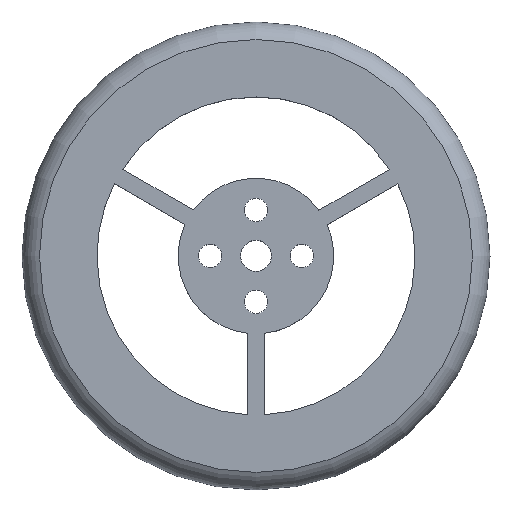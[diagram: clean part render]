
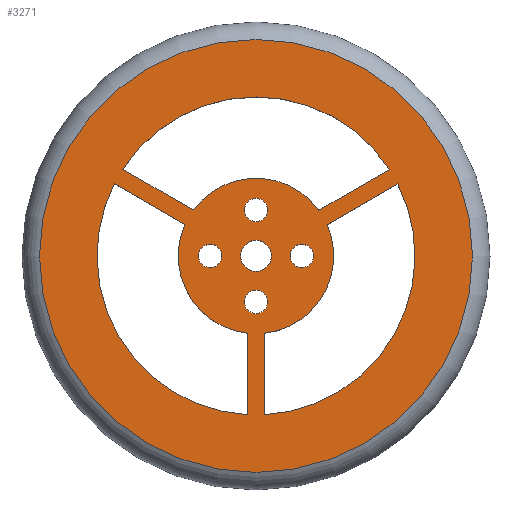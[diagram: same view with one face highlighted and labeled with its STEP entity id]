
A CAD part, top view. The second image highlights one B-rep face of the part: STEP entity #3271.
In plain terms, the highlighted planar face has unit normal (0, 0, 1).
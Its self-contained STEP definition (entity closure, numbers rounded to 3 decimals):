
#67=PLANE('',#3454);
#212=FACE_BOUND('',#472,.T.);
#213=FACE_BOUND('',#473,.T.);
#214=FACE_BOUND('',#474,.T.);
#215=FACE_BOUND('',#475,.T.);
#216=FACE_BOUND('',#476,.T.);
#217=FACE_BOUND('',#477,.T.);
#218=FACE_BOUND('',#478,.T.);
#219=FACE_BOUND('',#479,.T.);
#292=FACE_OUTER_BOUND('',#471,.T.);
#471=EDGE_LOOP('',(#2362));
#472=EDGE_LOOP('',(#2363,#2364,#2365,#2366));
#473=EDGE_LOOP('',(#2367));
#474=EDGE_LOOP('',(#2368));
#475=EDGE_LOOP('',(#2369));
#476=EDGE_LOOP('',(#2370));
#477=EDGE_LOOP('',(#2371));
#478=EDGE_LOOP('',(#2372,#2373,#2374,#2375));
#479=EDGE_LOOP('',(#2376,#2377,#2378,#2379));
#711=CIRCLE('',#3444,11.);
#712=CIRCLE('',#3446,11.);
#715=CIRCLE('',#3450,22.5);
#716=CIRCLE('',#3452,22.5);
#718=CIRCLE('',#3455,30.633);
#719=CIRCLE('',#3456,1.65);
#720=CIRCLE('',#3457,1.65);
#721=CIRCLE('',#3458,2.2);
#722=CIRCLE('',#3459,1.65);
#723=CIRCLE('',#3460,1.65);
#724=CIRCLE('',#3461,11.);
#725=CIRCLE('',#3462,22.5);
#757=LINE('',#4551,#1159);
#763=LINE('',#4563,#1165);
#768=LINE('',#4591,#1170);
#769=LINE('',#4602,#1171);
#770=LINE('',#4607,#1172);
#771=LINE('',#4610,#1173);
#1159=VECTOR('',#3683,10.);
#1165=VECTOR('',#3691,10.);
#1170=VECTOR('',#3724,10.);
#1171=VECTOR('',#3735,10.);
#1172=VECTOR('',#3738,10.);
#1173=VECTOR('',#3741,10.);
#1570=VERTEX_POINT('',#4547);
#1572=VERTEX_POINT('',#4550);
#1575=VERTEX_POINT('',#4557);
#1577=VERTEX_POINT('',#4561);
#1579=VERTEX_POINT('',#4567);
#1580=VERTEX_POINT('',#4571);
#1583=VERTEX_POINT('',#4579);
#1584=VERTEX_POINT('',#4583);
#1586=VERTEX_POINT('',#4589);
#1587=VERTEX_POINT('',#4592);
#1588=VERTEX_POINT('',#4594);
#1589=VERTEX_POINT('',#4596);
#1590=VERTEX_POINT('',#4598);
#1591=VERTEX_POINT('',#4600);
#1592=VERTEX_POINT('',#4603);
#1593=VERTEX_POINT('',#4604);
#1594=VERTEX_POINT('',#4606);
#1595=VERTEX_POINT('',#4608);
#1863=EDGE_CURVE('',#1570,#1572,#757,.T.);
#1869=EDGE_CURVE('',#1577,#1575,#763,.T.);
#1872=EDGE_CURVE('',#1577,#1579,#711,.T.);
#1873=EDGE_CURVE('',#1580,#1572,#712,.T.);
#1878=EDGE_CURVE('',#1583,#1570,#715,.T.);
#1879=EDGE_CURVE('',#1575,#1584,#716,.T.);
#1882=EDGE_CURVE('',#1586,#1586,#718,.T.);
#1883=EDGE_CURVE('',#1584,#1579,#768,.T.);
#1884=EDGE_CURVE('',#1587,#1587,#719,.T.);
#1885=EDGE_CURVE('',#1588,#1588,#720,.T.);
#1886=EDGE_CURVE('',#1589,#1589,#721,.T.);
#1887=EDGE_CURVE('',#1590,#1590,#722,.T.);
#1888=EDGE_CURVE('',#1591,#1591,#723,.T.);
#1889=EDGE_CURVE('',#1580,#1583,#769,.T.);
#1890=EDGE_CURVE('',#1592,#1593,#724,.T.);
#1891=EDGE_CURVE('',#1594,#1593,#770,.T.);
#1892=EDGE_CURVE('',#1595,#1594,#725,.T.);
#1893=EDGE_CURVE('',#1592,#1595,#771,.T.);
#2362=ORIENTED_EDGE('',*,*,#1882,.T.);
#2363=ORIENTED_EDGE('',*,*,#1872,.T.);
#2364=ORIENTED_EDGE('',*,*,#1883,.F.);
#2365=ORIENTED_EDGE('',*,*,#1879,.F.);
#2366=ORIENTED_EDGE('',*,*,#1869,.F.);
#2367=ORIENTED_EDGE('',*,*,#1884,.T.);
#2368=ORIENTED_EDGE('',*,*,#1885,.T.);
#2369=ORIENTED_EDGE('',*,*,#1886,.T.);
#2370=ORIENTED_EDGE('',*,*,#1887,.T.);
#2371=ORIENTED_EDGE('',*,*,#1888,.T.);
#2372=ORIENTED_EDGE('',*,*,#1863,.F.);
#2373=ORIENTED_EDGE('',*,*,#1878,.F.);
#2374=ORIENTED_EDGE('',*,*,#1889,.F.);
#2375=ORIENTED_EDGE('',*,*,#1873,.T.);
#2376=ORIENTED_EDGE('',*,*,#1890,.T.);
#2377=ORIENTED_EDGE('',*,*,#1891,.F.);
#2378=ORIENTED_EDGE('',*,*,#1892,.F.);
#2379=ORIENTED_EDGE('',*,*,#1893,.F.);
#3271=ADVANCED_FACE('',(#292,#212,#213,#214,#215,#216,#217,#218,#219),#67,
 .T.);
#3444=AXIS2_PLACEMENT_3D('',#4569,#3697,#3698);
#3446=AXIS2_PLACEMENT_3D('',#4572,#3701,#3702);
#3450=AXIS2_PLACEMENT_3D('',#4581,#3711,#3712);
#3452=AXIS2_PLACEMENT_3D('',#4584,#3715,#3716);
#3454=AXIS2_PLACEMENT_3D('',#4588,#3720,#3721);
#3455=AXIS2_PLACEMENT_3D('',#4590,#3722,#3723);
#3456=AXIS2_PLACEMENT_3D('',#4593,#3725,#3726);
#3457=AXIS2_PLACEMENT_3D('',#4595,#3727,#3728);
#3458=AXIS2_PLACEMENT_3D('',#4597,#3729,#3730);
#3459=AXIS2_PLACEMENT_3D('',#4599,#3731,#3732);
#3460=AXIS2_PLACEMENT_3D('',#4601,#3733,#3734);
#3461=AXIS2_PLACEMENT_3D('',#4605,#3736,#3737);
#3462=AXIS2_PLACEMENT_3D('',#4609,#3739,#3740);
#3683=DIRECTION('',(-0.866,-0.5,0.));
#3691=DIRECTION('',(0.866,0.5,0.));
#3697=DIRECTION('center_axis',(0.,0.,1.));
#3698=DIRECTION('ref_axis',(1.,0.,0.));
#3701=DIRECTION('center_axis',(0.,0.,1.));
#3702=DIRECTION('ref_axis',(1.,0.,0.));
#3711=DIRECTION('center_axis',(0.,0.,
1.));
#3712=DIRECTION('ref_axis',(1.,0.,0.));
#3715=DIRECTION('center_axis',(0.,0.,
1.));
#3716=DIRECTION('ref_axis',(1.,0.,0.));
#3720=DIRECTION('center_axis',(0.,0.,1.));
#3721=DIRECTION('ref_axis',(1.,0.,0.));
#3722=DIRECTION('center_axis',(0.,0.,
1.));
#3723=DIRECTION('ref_axis',(1.,0.,0.));
#3724=DIRECTION('',(0.866,-0.5,0.));
#3725=DIRECTION('center_axis',(0.,0.,-1.));
#3726=DIRECTION('ref_axis',(1.,0.,0.));
#3727=DIRECTION('center_axis',(0.,0.,-1.));
#3728=DIRECTION('ref_axis',(1.,0.,0.));
#3729=DIRECTION('center_axis',(0.,0.,-1.));
#3730=DIRECTION('ref_axis',(1.,0.,0.));
#3731=DIRECTION('center_axis',(0.,0.,-1.));
#3732=DIRECTION('ref_axis',(1.,0.,0.));
#3733=DIRECTION('center_axis',(0.,0.,-1.));
#3734=DIRECTION('ref_axis',(1.,0.,0.));
#3735=DIRECTION('',(0.,-1.,0.));
#3736=DIRECTION('center_axis',(0.,0.,1.));
#3737=DIRECTION('ref_axis',(1.,0.,0.));
#3738=DIRECTION('',(0.,1.,0.));
#3739=DIRECTION('center_axis',(0.,0.,
1.));
#3740=DIRECTION('ref_axis',(1.,0.,0.));
#3741=DIRECTION('',(-0.866,0.5,0.));
#4547=CARTESIAN_POINT('',(20.058,10.195,7.));
#4550=CARTESIAN_POINT('',(10.069,4.428,7.));
#4551=CARTESIAN_POINT('',(20.519,10.461,7.));
#4557=CARTESIAN_POINT('',(18.885,12.231,7.));
#4561=CARTESIAN_POINT('',(8.899,6.466,7.));
#4563=CARTESIAN_POINT('',(8.085,5.996,7.));
#4567=CARTESIAN_POINT('',(-8.869,6.506,7.));
#4569=CARTESIAN_POINT('Origin',(0.,0.,7.));
#4571=CARTESIAN_POINT('',(1.15,-10.94,7.));
#4572=CARTESIAN_POINT('Origin',(0.,0.,7.));
#4579=CARTESIAN_POINT('',(1.15,-22.471,7.));
#4581=CARTESIAN_POINT('Origin',(0.,0.,
7.));
#4583=CARTESIAN_POINT('',(-18.858,12.273,7.));
#4584=CARTESIAN_POINT('Origin',(0.,0.,
7.));
#4588=CARTESIAN_POINT('Origin',(0.,0.,7.));
#4589=CARTESIAN_POINT('',(-30.633,0.,7.));
#4590=CARTESIAN_POINT('Origin',(0.,0.,
7.));
#4591=CARTESIAN_POINT('',(-19.319,12.539,7.));
#4592=CARTESIAN_POINT('',(4.85,0.,7.));
#4593=CARTESIAN_POINT('Origin',(6.5,0.,7.));
#4594=CARTESIAN_POINT('',(-1.65,-6.5,7.));
#4595=CARTESIAN_POINT('Origin',(0.,-6.5,
7.));
#4596=CARTESIAN_POINT('',(-2.2,0.,7.));
#4597=CARTESIAN_POINT('Origin',(0.,0.,7.));
#4598=CARTESIAN_POINT('',(-8.15,0.,7.));
#4599=CARTESIAN_POINT('Origin',(-6.5,0.,
7.));
#4600=CARTESIAN_POINT('',(-1.65,6.5,7.));
#4601=CARTESIAN_POINT('Origin',(0.,6.5,7.));
#4602=CARTESIAN_POINT('',(1.15,-10.,7.));
#4603=CARTESIAN_POINT('',(-10.049,4.474,7.));
#4604=CARTESIAN_POINT('',(-1.2,-10.934,7.));
#4605=CARTESIAN_POINT('Origin',(0.,0.,7.));
#4606=CARTESIAN_POINT('',(-1.2,-22.468,7.));
#4607=CARTESIAN_POINT('',(-1.2,-23.,7.));
#4608=CARTESIAN_POINT('',(-20.035,10.239,7.));
#4609=CARTESIAN_POINT('Origin',(0.,0.,
7.));
#4610=CARTESIAN_POINT('',(-9.235,4.004,7.));
